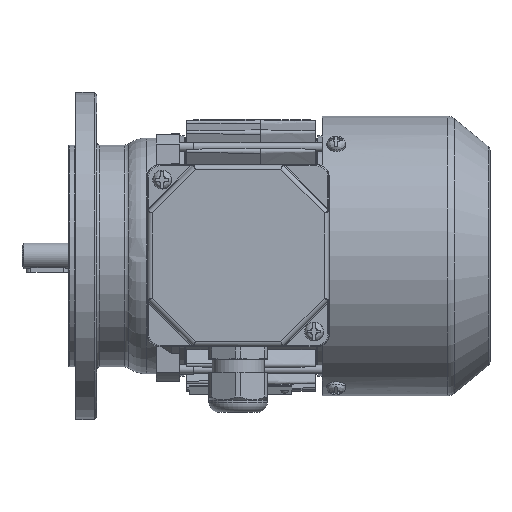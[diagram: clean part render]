
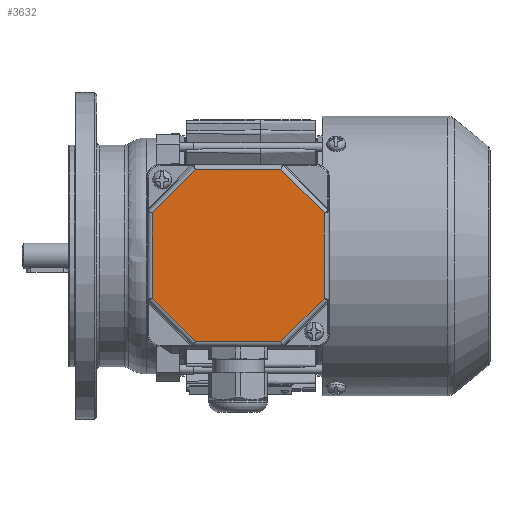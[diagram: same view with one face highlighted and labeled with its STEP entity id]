
A CAD part, top view. The second image highlights one B-rep face of the part: STEP entity #3632.
In plain terms, the highlighted planar face has unit normal (0, 0, 1).
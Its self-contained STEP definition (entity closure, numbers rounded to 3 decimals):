
#3632 = ADVANCED_FACE( '', ( #7744 ), #7745, .T. );
#7744 = FACE_OUTER_BOUND( '', #16594, .T. );
#7745 = PLANE( '', #16595 );
#16594 = EDGE_LOOP( '', ( #30340, #30341, #30342, #30343, #30344, #30345, #30346, #30347 ) );
#16595 = AXIS2_PLACEMENT_3D( '', #30348, #30349, #30350 );
#30340 = ORIENTED_EDGE( '', *, *, #42122, .T. );
#30341 = ORIENTED_EDGE( '', *, *, #41403, .T. );
#30342 = ORIENTED_EDGE( '', *, *, #42123, .T. );
#30343 = ORIENTED_EDGE( '', *, *, #42124, .T. );
#30344 = ORIENTED_EDGE( '', *, *, #42125, .T. );
#30345 = ORIENTED_EDGE( '', *, *, #40675, .T. );
#30346 = ORIENTED_EDGE( '', *, *, #42126, .T. );
#30347 = ORIENTED_EDGE( '', *, *, #42127, .T. );
#30348 = CARTESIAN_POINT( '', ( -39., 39., 12. ) );
#30349 = DIRECTION( '', ( 0., 0., 1. ) );
#30350 = DIRECTION( '', ( 1., 0., 0. ) );
#40675 = EDGE_CURVE( '', #48646, #48647, #48648, .T. );
#41403 = EDGE_CURVE( '', #45777, #49790, #49791, .T. );
#42122 = EDGE_CURVE( '', #50872, #45777, #50873, .F. );
#42123 = EDGE_CURVE( '', #49790, #48980, #50874, .F. );
#42124 = EDGE_CURVE( '', #48980, #50875, #50876, .T. );
#42125 = EDGE_CURVE( '', #50875, #48646, #50877, .F. );
#42126 = EDGE_CURVE( '', #48647, #50878, #50879, .F. );
#42127 = EDGE_CURVE( '', #50878, #50872, #50880, .T. );
#45777 = VERTEX_POINT( '', #54728 );
#48646 = VERTEX_POINT( '', #60440 );
#48647 = VERTEX_POINT( '', #60441 );
#48648 = LINE( '', #60442, #60443 );
#48980 = VERTEX_POINT( '', #61247 );
#49790 = VERTEX_POINT( '', #63183 );
#49791 = LINE( '', #63184, #63185 );
#50872 = VERTEX_POINT( '', #65482 );
#50873 = LINE( '', #65483, #65484 );
#50874 = LINE( '', #65485, #65486 );
#50875 = VERTEX_POINT( '', #65487 );
#50876 = LINE( '', #65488, #65489 );
#50877 = LINE( '', #65490, #65491 );
#50878 = VERTEX_POINT( '', #65492 );
#50879 = LINE( '', #65493, #65494 );
#50880 = LINE( '', #65495, #65496 );
#54728 = CARTESIAN_POINT( '', ( 36.825, 18.255, 12. ) );
#60440 = CARTESIAN_POINT( '', ( -36.825, -18.255, 12. ) );
#60441 = CARTESIAN_POINT( '', ( -18.255, -36.825, 12. ) );
#60442 = CARTESIAN_POINT( '', ( -17.679, -37.401, 12. ) );
#60443 = VECTOR( '', #74284, 1000. );
#61247 = CARTESIAN_POINT( '', ( -18.255, 36.825, 12. ) );
#63183 = CARTESIAN_POINT( '', ( 18.255, 36.825, 12. ) );
#63184 = CARTESIAN_POINT( '', ( 17.679, 37.401, 12. ) );
#63185 = VECTOR( '', #75141, 1000. );
#65482 = CARTESIAN_POINT( '', ( 36.825, -18.255, 12. ) );
#65483 = CARTESIAN_POINT( '', ( 36.825, 19.069, 12. ) );
#65484 = VECTOR( '', #75891, 1000. );
#65485 = CARTESIAN_POINT( '', ( -19.069, 36.825, 12. ) );
#65486 = VECTOR( '', #75892, 1000. );
#65487 = CARTESIAN_POINT( '', ( -36.825, 18.255, 12. ) );
#65488 = CARTESIAN_POINT( '', ( -37.401, 17.679, 12. ) );
#65489 = VECTOR( '', #75893, 1000. );
#65490 = CARTESIAN_POINT( '', ( -36.825, -19.069, 12. ) );
#65491 = VECTOR( '', #75894, 1000. );
#65492 = CARTESIAN_POINT( '', ( 18.255, -36.825, 12. ) );
#65493 = CARTESIAN_POINT( '', ( 19.069, -36.825, 12. ) );
#65494 = VECTOR( '', #75895, 1000. );
#65495 = CARTESIAN_POINT( '', ( 37.401, -17.679, 12. ) );
#65496 = VECTOR( '', #75896, 1000. );
#74284 = DIRECTION( '', ( 0.707, -0.707, 0. ) );
#75141 = DIRECTION( '', ( -0.707, 0.707, 0. ) );
#75891 = DIRECTION( '', ( 0., -1., 0. ) );
#75892 = DIRECTION( '', ( 1., 0., 0. ) );
#75893 = DIRECTION( '', ( -0.707, -0.707, 0. ) );
#75894 = DIRECTION( '', ( 0., 1., 0. ) );
#75895 = DIRECTION( '', ( -1., 0., 0. ) );
#75896 = DIRECTION( '', ( 0.707, 0.707, 0. ) );
